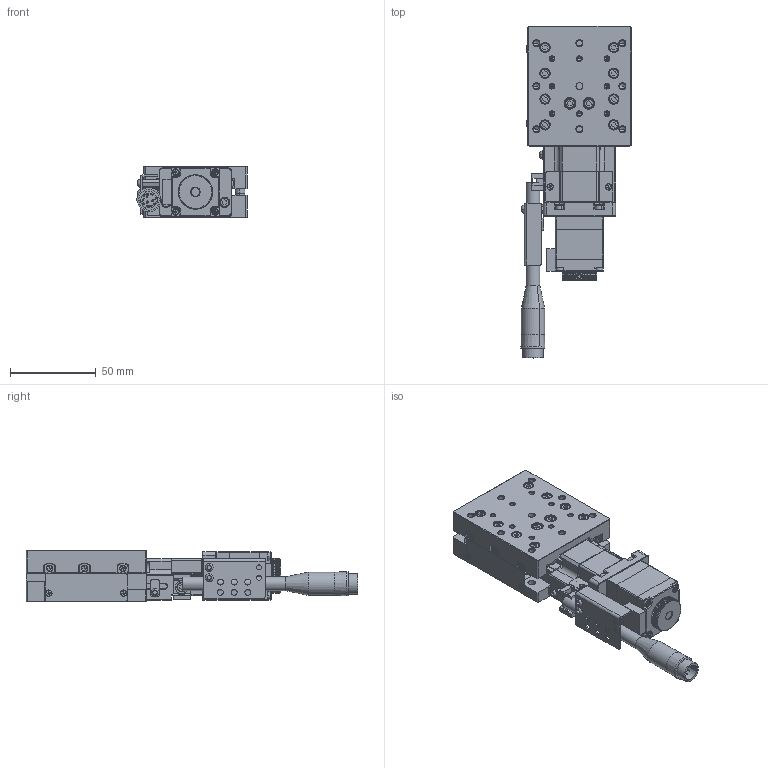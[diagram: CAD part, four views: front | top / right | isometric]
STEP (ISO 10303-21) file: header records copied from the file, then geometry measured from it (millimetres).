
FILE_DESCRIPTION (( 'STEP AP214' ), '1' );
FILE_NAME ('TXA6030B-L2-M28L.STEP', '2025-01-03T11:07:28', ( '' ), ( '' ), 'SwSTEP 2.0', 'SolidWorks 2020', '' );
FILE_SCHEMA (( 'AUTOMOTIVE_DESIGN' ));
Length unit declared in the file: millimetre
Products named in the file (1): TXA6030B-L2-M28L
Bounding box: 63.98 x 193 x 30 mm (x, y, z)
Volume: 148641.7 mm3; surface area: 82634.2 mm2
Topology: 80 solids, 80 shells, 3472 faces, 8664 edges, 5465 vertices
Faces by surface type: plane 1771, cylinder 882, cone 489, torus 172, bspline 154, sphere 4
Entity records: 149747 total; most frequent: CARTESIAN_POINT 27672, ORIENTED_EDGE 17186, DIRECTION 17021, EDGE_CURVE 8593, AXIS2_PLACEMENT_3D 5881, VERTEX_POINT 5465, VECTOR 5259, LINE 5259
